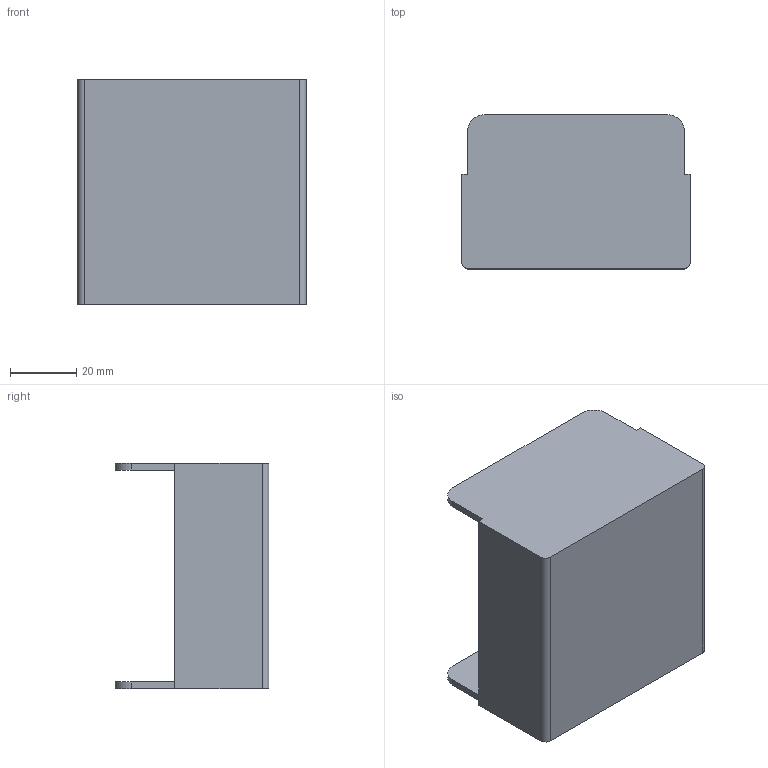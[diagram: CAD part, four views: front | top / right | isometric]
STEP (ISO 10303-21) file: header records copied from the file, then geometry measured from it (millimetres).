
FILE_DESCRIPTION(/* description */ ('STEP AP242','CAx-IF Rec.Pracs.---Representation and Presentation of Product Manufacturing Information (PMI)---4.0---2014-10-13','CAx-IF Rec.Pracs.---3D Tessellated Geometry---0.4---2014-09-14','2;1'),/* implementation_level */ '2;1');
FILE_NAME(/* name */ '635cbce0436e6a196affa413',/* time_stamp */ '2022-10-29T05:40:48+00:00',/* author */ (''),/* organization */ (''),/* preprocessor_version */ 'ST-DEVELOPER v18.102',/* originating_system */ ' ',/* authorisation */ ' ');
FILE_SCHEMA (('AP242_MANAGED_MODEL_BASED_3D_ENGINEERING_MIM_LF { 1 0 10303 442 1 1 4 }'));
Length unit declared in the file: metre
Products named in the file (1): Part 10
Bounding box: 69 x 46.5 x 68 mm (x, y, z)
Volume: 23476.2 mm3; surface area: 28806.4 mm2
Topology: 1 solids, 1 shells, 26 faces, 72 edges, 48 vertices
Faces by surface type: plane 18, cylinder 8
Entity records: 854 total; most frequent: CARTESIAN_POINT 147, ORIENTED_EDGE 144, DIRECTION 142, EDGE_CURVE 72, LINE 56, VECTOR 56, VERTEX_POINT 48, AXIS2_PLACEMENT_3D 43
